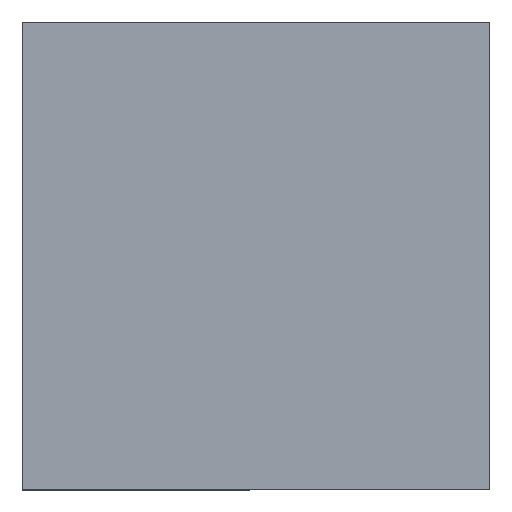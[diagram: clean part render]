
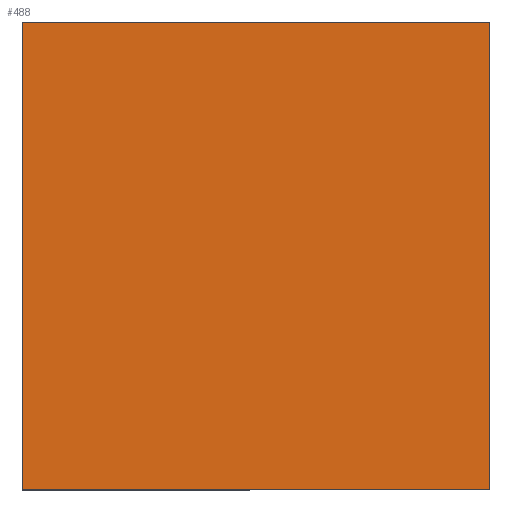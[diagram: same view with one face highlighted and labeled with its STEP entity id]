
A CAD part, top view. The second image highlights one B-rep face of the part: STEP entity #488.
In plain terms, the highlighted planar face has unit normal (0, 0, 1).
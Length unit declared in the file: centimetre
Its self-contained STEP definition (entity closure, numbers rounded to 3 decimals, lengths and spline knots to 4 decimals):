
#25 = PLANE ( 'NONE',  #186 ) ;
#35 = EDGE_CURVE ( 'NONE', #113, #168, #525, .T. ) ;
#65 = CARTESIAN_POINT ( 'NONE',  ( 0., 0., 1000. ) ) ;
#69 = DIRECTION ( 'NONE',  ( 1., 0., 0. ) ) ;
#80 = EDGE_CURVE ( 'NONE', #164, #113, #555, .T. ) ;
#103 = DIRECTION ( 'NONE',  ( 0., 0., 1. ) ) ;
#104 = VERTEX_POINT ( 'NONE', #327 ) ;
#113 = VERTEX_POINT ( 'NONE', #430 ) ;
#119 = ORIENTED_EDGE ( 'NONE', *, *, #325, .T. ) ;
#122 = DIRECTION ( 'NONE',  ( -1., 0., 0. ) ) ;
#147 = EDGE_CURVE ( 'NONE', #104, #164, #573, .T. ) ;
#164 = VERTEX_POINT ( 'NONE', #320 ) ;
#168 = VERTEX_POINT ( 'NONE', #174 ) ;
#174 = CARTESIAN_POINT ( 'NONE',  ( 1000., 1000., 1000. ) ) ;
#181 = DIRECTION ( 'NONE',  ( 0., -1., 0. ) ) ;
#186 = AXIS2_PLACEMENT_3D ( 'NONE', #65, #103, #266 ) ;
#195 = EDGE_LOOP ( 'NONE', ( #571, #624, #281, #119 ) ) ;
#228 = VECTOR ( 'NONE', #613, 100. ) ;
#266 = DIRECTION ( 'NONE',  ( 1., 0., 0. ) ) ;
#281 = ORIENTED_EDGE ( 'NONE', *, *, #35, .T. ) ;
#282 = CARTESIAN_POINT ( 'NONE',  ( 0., 1000., 1000. ) ) ;
#320 = CARTESIAN_POINT ( 'NONE',  ( 0., 0., 1000. ) ) ;
#325 = EDGE_CURVE ( 'NONE', #168, #104, #407, .T. ) ;
#327 = CARTESIAN_POINT ( 'NONE',  ( 0., 1000., 1000. ) ) ;
#407 = LINE ( 'NONE', #461, #435 ) ;
#424 = VECTOR ( 'NONE', #69, 100. ) ;
#430 = CARTESIAN_POINT ( 'NONE',  ( 1000., 0., 1000. ) ) ;
#435 = VECTOR ( 'NONE', #122, 100. ) ;
#461 = CARTESIAN_POINT ( 'NONE',  ( 0., 1000., 1000. ) ) ;
#475 = CARTESIAN_POINT ( 'NONE',  ( 1000., 1000., 1000. ) ) ;
#488 = ADVANCED_FACE ( 'NONE', ( #493 ), #25, .T. ) ;
#493 = FACE_OUTER_BOUND ( 'NONE', #195, .T. ) ;
#525 = LINE ( 'NONE', #475, #228 ) ;
#555 = LINE ( 'NONE', #611, #424 ) ;
#568 = VECTOR ( 'NONE', #181, 100. ) ;
#571 = ORIENTED_EDGE ( 'NONE', *, *, #147, .T. ) ;
#573 = LINE ( 'NONE', #282, #568 ) ;
#611 = CARTESIAN_POINT ( 'NONE',  ( 0., 0., 1000. ) ) ;
#613 = DIRECTION ( 'NONE',  ( 0., 1., 0. ) ) ;
#624 = ORIENTED_EDGE ( 'NONE', *, *, #80, .T. ) ;
